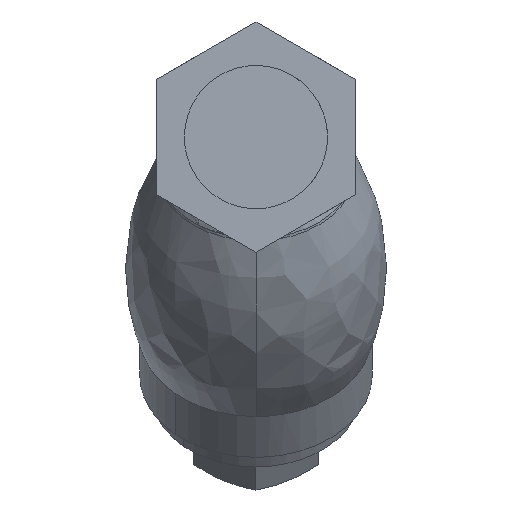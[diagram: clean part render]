
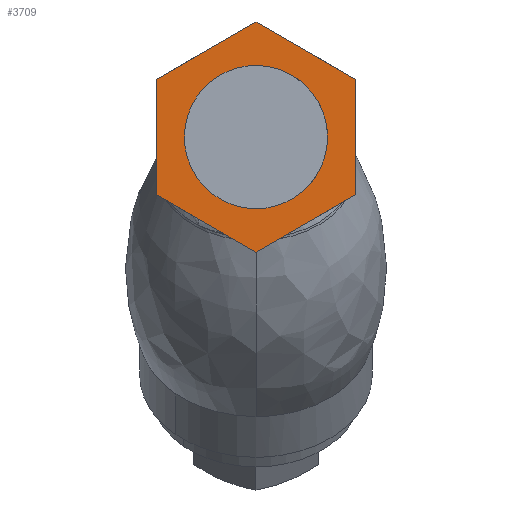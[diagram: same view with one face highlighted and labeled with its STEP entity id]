
A CAD part, left-side view. The second image highlights one B-rep face of the part: STEP entity #3709.
In plain terms, the highlighted free-form (B-spline) face has degree [1, 1] with [2, 2] control points.
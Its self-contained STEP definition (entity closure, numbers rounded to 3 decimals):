
#839=CARTESIAN_POINT('',(0.,12.718,11.654));
#840=VERTEX_POINT('',#839);
#846=CARTESIAN_POINT('',(0.,17.25,0.));
#847=VERTEX_POINT('',#846);
#848=CARTESIAN_POINT('',(0.,17.25,0.));
#849=CARTESIAN_POINT('',(0.,17.25,1.233));
#850=CARTESIAN_POINT('',(0.,17.049,3.099));
#851=CARTESIAN_POINT('',(0.,16.294,5.833));
#852=CARTESIAN_POINT('',(0.,15.085,8.626));
#853=CARTESIAN_POINT('',(0.,13.686,10.598));
#854=CARTESIAN_POINT('',(0.,12.718,11.654));
#855=B_SPLINE_CURVE_WITH_KNOTS('',3,(#848,#849,#850,#851,#852,#853,#854),.UNSPECIFIED.,.F.,.U.,(4,1,1,1,4),(0.,3.699,5.598,8.497,12.795),.UNSPECIFIED.);
#856=EDGE_CURVE('',#847,#840,#855,.T.);
#858=CARTESIAN_POINT('',(0.,0.,-17.25));
#859=VERTEX_POINT('',#858);
#860=CARTESIAN_POINT('',(0.,0.,-17.25));
#861=CARTESIAN_POINT('',(0.,7.145,-17.25));
#862=CARTESIAN_POINT('',(0.,12.198,-12.198));
#863=CARTESIAN_POINT('',(0.,17.25,-7.145));
#864=CARTESIAN_POINT('',(0.,17.25,0.));
#872=(BOUNDED_CURVE()B_SPLINE_CURVE(2,(#860,#861,#862,#863,#864),.UNSPECIFIED.,.F.,.U.)B_SPLINE_CURVE_WITH_KNOTS((3,2,3),(0.,0.5,1.),.UNSPECIFIED.)CURVE()GEOMETRIC_REPRESENTATION_ITEM()RATIONAL_B_SPLINE_CURVE((1.,0.924,1.,0.924,1.))REPRESENTATION_ITEM(''));
#873=EDGE_CURVE('',#859,#847,#872,.T.);
#875=CARTESIAN_POINT('',(0.,-12.718,-11.654));
#876=VERTEX_POINT('',#875);
#877=CARTESIAN_POINT('',(0.,-12.718,-11.654));
#878=CARTESIAN_POINT('',(0.,-11.938,-12.505));
#879=CARTESIAN_POINT('',(0.,-10.29,-13.975));
#880=CARTESIAN_POINT('',(0.,-7.528,-15.622));
#881=CARTESIAN_POINT('',(0.,-4.868,-16.622));
#882=CARTESIAN_POINT('',(0.,-2.346,-17.143));
#883=CARTESIAN_POINT('',(0.,-0.782,-17.25));
#884=CARTESIAN_POINT('',(0.,0.,-17.25));
#885=B_SPLINE_CURVE_WITH_KNOTS('',3,(#877,#878,#879,#880,#881,#882,#883,#884),.UNSPECIFIED.,.F.,.U.,(4,1,1,1,1,4),(0.,3.463,6.592,9.608,11.955,14.301),.UNSPECIFIED.);
#886=EDGE_CURVE('',#876,#859,#885,.T.);
#990=CARTESIAN_POINT('',(0.,-17.25,0.));
#991=VERTEX_POINT('',#990);
#992=CARTESIAN_POINT('',(0.,-17.25,0.));
#993=CARTESIAN_POINT('',(0.,-17.25,-0.933));
#994=CARTESIAN_POINT('',(0.,-17.123,-2.499));
#995=CARTESIAN_POINT('',(0.,-16.605,-4.845));
#996=CARTESIAN_POINT('',(0.,-15.859,-6.921));
#997=CARTESIAN_POINT('',(0.,-14.608,-9.318));
#998=CARTESIAN_POINT('',(0.,-13.484,-10.819));
#999=CARTESIAN_POINT('',(0.,-12.718,-11.654));
#1000=B_SPLINE_CURVE_WITH_KNOTS('',3,(#992,#993,#994,#995,#996,#997,#998,#999),.UNSPECIFIED.,.F.,.U.,(4,1,1,1,1,4),(0.,2.799,4.698,7.197,9.397,12.795),.UNSPECIFIED.);
#1001=EDGE_CURVE('',#991,#876,#1000,.T.);
#1003=CARTESIAN_POINT('',(0.,0.,17.25));
#1004=VERTEX_POINT('',#1003);
#1005=CARTESIAN_POINT('',(0.,0.,17.25));
#1006=CARTESIAN_POINT('',(0.,-0.776,17.25));
#1007=CARTESIAN_POINT('',(0.,-2.505,17.133));
#1008=CARTESIAN_POINT('',(0.,-5.201,16.536));
#1009=CARTESIAN_POINT('',(0.,-7.79,15.474));
#1010=CARTESIAN_POINT('',(0.,-9.841,14.218));
#1011=CARTESIAN_POINT('',(0.,-11.67,12.772));
#1012=CARTESIAN_POINT('',(0.,-13.396,10.993));
#1013=CARTESIAN_POINT('',(0.,-14.965,8.721));
#1014=CARTESIAN_POINT('',(0.,-16.237,6.075));
#1015=CARTESIAN_POINT('',(0.,-17.058,3.175));
#1016=CARTESIAN_POINT('',(0.,-17.25,1.023));
#1017=CARTESIAN_POINT('',(0.,-17.25,0.));
#1018=B_SPLINE_CURVE_WITH_KNOTS('',3,(#1005,#1006,#1007,#1008,#1009,#1010,#1011,#1012,#1013,#1014,#1015,#1016,#1017),.UNSPECIFIED.,.F.,.U.,(4,1,1,1,1,1,1,1,1,1,4),(0.,2.329,5.186,8.256,10.69,12.384,15.242,18.099,20.64,24.027,27.096),.UNSPECIFIED.);
#1019=EDGE_CURVE('',#1004,#991,#1018,.T.);
#1021=CARTESIAN_POINT('',(0.,12.718,11.654));
#1022=CARTESIAN_POINT('',(0.,12.19,12.231));
#1023=CARTESIAN_POINT('',(0.,11.054,13.312));
#1024=CARTESIAN_POINT('',(0.,9.329,14.557));
#1025=CARTESIAN_POINT('',(0.,7.44,15.609));
#1026=CARTESIAN_POINT('',(0.,5.194,16.529));
#1027=CARTESIAN_POINT('',(0.,2.607,17.126));
#1028=CARTESIAN_POINT('',(0.,0.782,17.25));
#1029=CARTESIAN_POINT('',(0.,0.,17.25));
#1030=B_SPLINE_CURVE_WITH_KNOTS('',3,(#1021,#1022,#1023,#1024,#1025,#1026,#1027,#1028,#1029),.UNSPECIFIED.,.F.,.U.,(4,1,1,1,1,1,4),(0.,2.346,4.692,6.368,8.826,11.955,14.301),.UNSPECIFIED.);
#1031=EDGE_CURVE('',#840,#1004,#1030,.T.);
#3448=CARTESIAN_POINT('',(0.,-24.,13.856));
#3449=VERTEX_POINT('',#3448);
#3450=CARTESIAN_POINT('',(0.,-24.,-13.856));
#3451=VERTEX_POINT('',#3450);
#3452=CARTESIAN_POINT('',(0.,-24.,13.856));
#3453=CARTESIAN_POINT('',(0.,-24.,-13.856));
#3454=QUASI_UNIFORM_CURVE('',1,(#3452,#3453),.UNSPECIFIED.,.F.,.U.);
#3455=EDGE_CURVE('',#3449,#3451,#3454,.T.);
#3489=CARTESIAN_POINT('',(0.,0.,27.713));
#3490=VERTEX_POINT('',#3489);
#3491=CARTESIAN_POINT('',(0.,0.,27.713));
#3492=CARTESIAN_POINT('',(0.,-24.,13.856));
#3493=QUASI_UNIFORM_CURVE('',1,(#3491,#3492),.UNSPECIFIED.,.F.,.U.);
#3494=EDGE_CURVE('',#3490,#3449,#3493,.T.);
#3516=CARTESIAN_POINT('',(0.,24.,13.856));
#3517=VERTEX_POINT('',#3516);
#3518=CARTESIAN_POINT('',(0.,24.,13.856));
#3519=CARTESIAN_POINT('',(0.,0.,27.713));
#3520=QUASI_UNIFORM_CURVE('',1,(#3518,#3519),.UNSPECIFIED.,.F.,.U.);
#3521=EDGE_CURVE('',#3517,#3490,#3520,.T.);
#3545=CARTESIAN_POINT('',(0.,24.,-13.856));
#3546=VERTEX_POINT('',#3545);
#3547=CARTESIAN_POINT('',(0.,24.,-13.856));
#3548=CARTESIAN_POINT('',(0.,24.,13.856));
#3549=QUASI_UNIFORM_CURVE('',1,(#3547,#3548),.UNSPECIFIED.,.F.,.U.);
#3550=EDGE_CURVE('',#3546,#3517,#3549,.T.);
#3578=CARTESIAN_POINT('',(0.,0.,-27.713));
#3579=VERTEX_POINT('',#3578);
#3580=CARTESIAN_POINT('',(0.,0.,-27.713));
#3581=CARTESIAN_POINT('',(0.,24.,-13.856));
#3582=QUASI_UNIFORM_CURVE('',1,(#3580,#3581),.UNSPECIFIED.,.F.,.U.);
#3583=EDGE_CURVE('',#3579,#3546,#3582,.T.);
#3611=CARTESIAN_POINT('',(0.,-24.,-13.856));
#3612=CARTESIAN_POINT('',(0.,0.,-27.713));
#3613=QUASI_UNIFORM_CURVE('',1,(#3611,#3612),.UNSPECIFIED.,.F.,.U.);
#3614=EDGE_CURVE('',#3451,#3579,#3613,.T.);
#3688=CARTESIAN_POINT('',(0.,-26.398,30.481));
#3689=CARTESIAN_POINT('',(0.,-26.398,-30.481));
#3690=CARTESIAN_POINT('',(0.,26.398,30.481));
#3691=CARTESIAN_POINT('',(0.,26.398,-30.481));
#3692=B_SPLINE_SURFACE_WITH_KNOTS('',1,1,((#3688,#3690),(#3689,#3691)),.UNSPECIFIED.,.F.,.F.,.U.,(2,2),(2,2),(0.,60.963),(0.,52.795),.UNSPECIFIED.);
#3693=ORIENTED_EDGE('',*,*,#3614,.F.);
#3694=ORIENTED_EDGE('',*,*,#3455,.F.);
#3695=ORIENTED_EDGE('',*,*,#3494,.F.);
#3696=ORIENTED_EDGE('',*,*,#3521,.F.);
#3697=ORIENTED_EDGE('',*,*,#3550,.F.);
#3698=ORIENTED_EDGE('',*,*,#3583,.F.);
#3699=EDGE_LOOP('',(#3693,#3694,#3695,#3696,#3697,#3698));
#3700=FACE_OUTER_BOUND('',#3699,.T.);
#3701=ORIENTED_EDGE('',*,*,#1019,.T.);
#3702=ORIENTED_EDGE('',*,*,#1001,.T.);
#3703=ORIENTED_EDGE('',*,*,#886,.T.);
#3704=ORIENTED_EDGE('',*,*,#873,.T.);
#3705=ORIENTED_EDGE('',*,*,#856,.T.);
#3706=ORIENTED_EDGE('',*,*,#1031,.T.);
#3707=EDGE_LOOP('',(#3701,#3702,#3703,#3704,#3705,#3706));
#3708=FACE_BOUND('',#3707,.T.);
#3709=ADVANCED_FACE('',(#3700,#3708),#3692,.F.);
